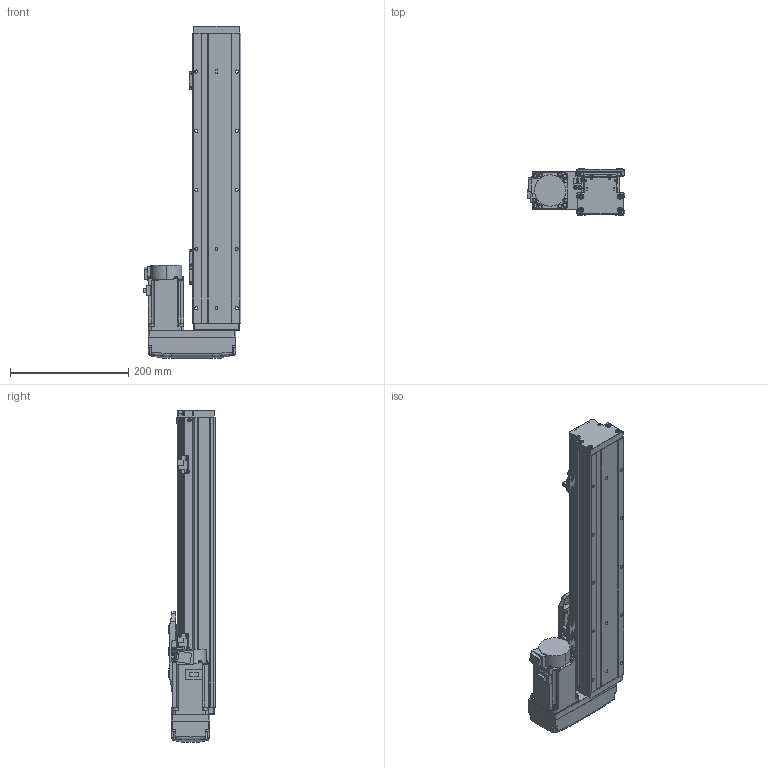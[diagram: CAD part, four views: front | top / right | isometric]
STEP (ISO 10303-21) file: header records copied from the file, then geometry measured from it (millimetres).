
FILE_DESCRIPTION (( 'STEP AP203' ), '1' );
FILE_NAME ('GTH8-300-BL-M20-C4.step', '2022-09-23T00:59:46', ( '微软用户' ), ( '微软中国' ), 'SwSTEP 2.0', 'SolidWorks 2020', '' );
FILE_SCHEMA (( 'CONFIG_CONTROL_DESIGN' ));
Length unit declared in the file: millimetre
Products named in the file (18): GTH80-003; GBT 70.1-M4×16; CTHA86-015-1_CTHA86-015-2; GTH80-004; GTH80-028; CTHA86-033_M40B; GTH80-006; GTH50-024; GTH80-013; GTH50-023; GBT 70.3-M3℅6; GBT96.1-2002 3×0.8; GTH8-300-BL-M20-C4; GTH80-022; BTH-M3X5X6; GTH80-001_300; GBT 70.1-M3℅6; hg-kn43j_-s100_
Assembly tree (57 placements, depth 2):
  GTH8-300-BL-M20-C4
    GTH80-001_300
    GTH80-003
    GTH80-004
    GTH80-006
    GTH80-013
    GBT 70.3-M3℅6  x4
    GTH80-022
    GBT 70.1-M3℅6  x14
    GBT 70.1-M4×16  x8
    GTH80-028  x2
    GTH50-024  x3
    GTH50-023  x3
    GBT96.1-2002 3×0.8  x6
    BTH-M3X5X6  x8
    hg-kn43j_-s100_
    CTHA86-015-1_CTHA86-015-2
    CTHA86-033_M40B
Bounding box: 164.8 x 78 x 561 mm (x, y, z)
Volume: 3113433.1 mm3; surface area: 362541.6 mm2
Topology: 59 solids, 59 shells, 2228 faces, 5139 edges, 3147 vertices
Faces by surface type: plane 1187, cylinder 599, cone 260, torus 166, bspline 8, sphere 8
Entity records: 40478 total; most frequent: CARTESIAN_POINT 7121, DIRECTION 6565, ORIENTED_EDGE 6096, EDGE_CURVE 3048, AXIS2_PLACEMENT_3D 2289, VECTOR 1987, LINE 1987, VERTEX_POINT 1922
